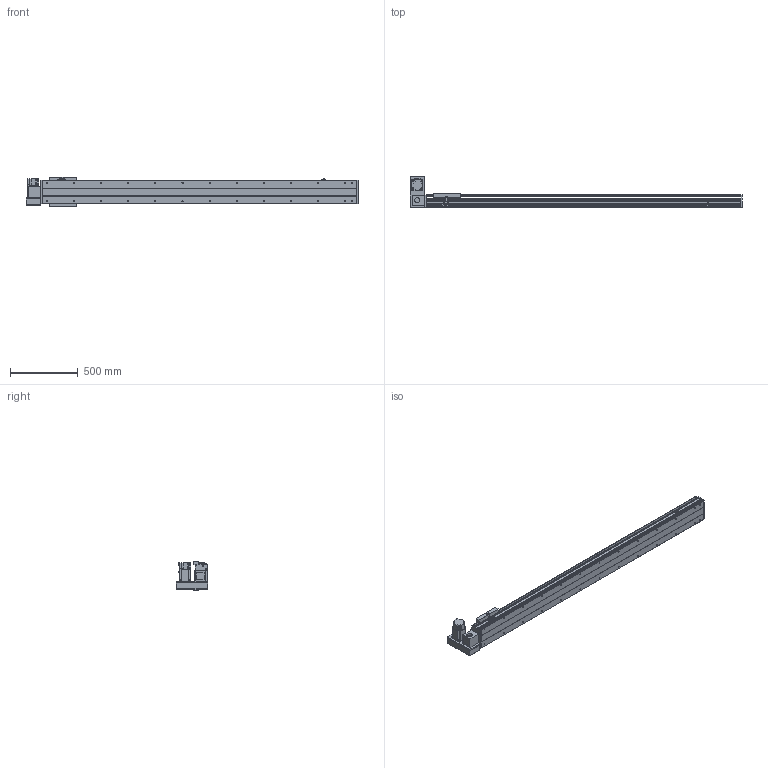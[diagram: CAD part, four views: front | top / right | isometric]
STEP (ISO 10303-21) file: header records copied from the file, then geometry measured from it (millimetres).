
FILE_DESCRIPTION(/* description */ ('STEP AP214'),/* implementation_level */ '2;1');
FILE_NAME(/* name */ 'PBS200-P40-S1950-LU-T75-C1-N(0)',/* time_stamp */ '2022-06-11T09:01:27+02:00',/* author */ ('License CC BY-ND 4.0'),/* organization */ ('CADENAS'),/* preprocessor_version */ 'ST-DEVELOPER v18.102',/* originating_system */ 'PARTsolutions',/* authorisation */ ' ');
FILE_SCHEMA (('AUTOMOTIVE_DESIGN {1 0 10303 214 3 1 1}'));
Length unit declared in the file: millimetre
Products named in the file (7): PBS200-P40-S1950-LU-T75-C1-N(0); PBS200_sensor; PBS200_plant; PBS200_sliser; T75-p1; PBS200T-LU_motors; PBS200-S1950()_body
Assembly tree (8 placements, depth 2):
  PBS200-P40-S1950-LU-T75-C1-N(0)
    PBS200_sensor  x3
    PBS200_plant
    PBS200_sliser
    T75-p1
    PBS200T-LU_motors
    PBS200-S1950()_body
Bounding box: 2450 x 231 x 221 mm (x, y, z)
Volume: 17169086.4 mm3; surface area: 2755089 mm2
Topology: 8 solids, 8 shells, 950 faces, 2424 edges, 1578 vertices
Faces by surface type: plane 584, cylinder 308, cone 58
Full cylindrical faces by diameter (mm): 2.459 x6, 3.242 x4, 4.5 x6, 4.917 x4, 5 x6, 6 x7, 6.6 x8, 6.647 x30, 8 x6, 10 x4, 12 x8, 38 x2, 40 x1, 70 x1
Entity records: 25181 total; most frequent: DIRECTION 4447, CARTESIAN_POINT 4282, ORIENTED_EDGE 4042, EDGE_CURVE 2021, AXIS2_PLACEMENT_3D 1567, VERTEX_POINT 1402, LINE 1313, VECTOR 1313
